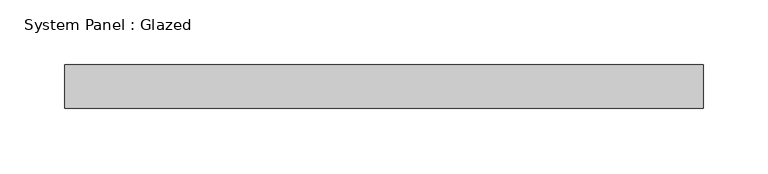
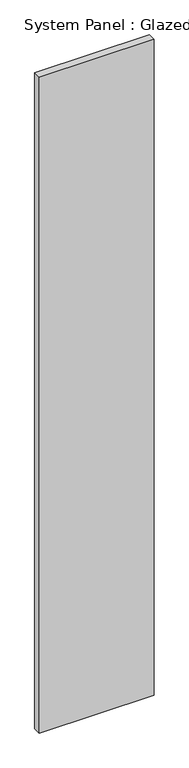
"""IFC4 building model written with IfcOpenShell, lengths in millimetres: plate geometry, System Panel : Glazed."""

from ifc_helpers import new_model, si_unit, origin, origin_with_axes, place, context, project, spatial, polyline, outline, extrude, source, transform, mapped, element, save


def system_panel_glazed_9a2b330e(model_context):
    return source(origin(), model_context, "Body", "SweptSolid", [
        extrude(outline(polyline([(247.5, -17.0), (-247.5, -17.0), (-247.5, 17.0), (247.5, 17.0), (247.5, -17.0)])), origin_with_axes(), (0.0, 0.0, 1.0), 2990.0004903),
    ])


if __name__ == "__main__":
    model = new_model("IFC4")
    model_context = context("Model", 3, world=origin())
    ifc_project = project(units=[si_unit("LENGTHUNIT", "METRE", prefix="MILLI")], contexts=[model_context])
    site = spatial("IfcSite", under=ifc_project)
    building = spatial("IfcBuilding", under=site)
    placement = place(None, origin())
    system_panel_glazed_shape = system_panel_glazed_9a2b330e(model_context)
    element("IfcPlate", 1, ObjectType="System Panel : Glazed", at=placement, inside=building, context=model_context, shape_type="MappedRepresentation", body=[
        mapped(system_panel_glazed_shape, transform((0.0, 0.0, 0.0), x_axis=(1.0, 0.0, 0.0), y_axis=(0.0, 1.0, 0.0), z_axis=(0.0, 0.0, 1.0))),
    ])
    save(model, "model.ifc")
